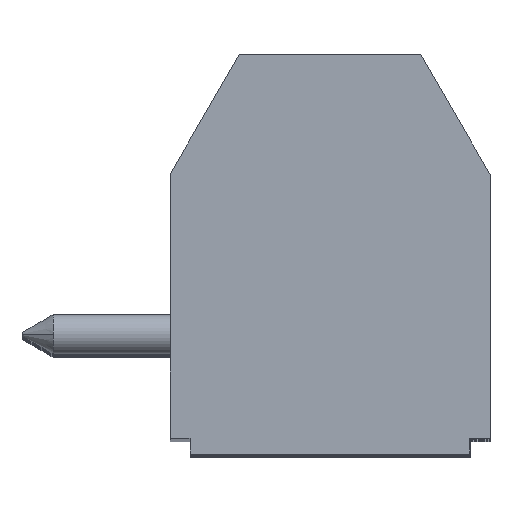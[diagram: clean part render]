
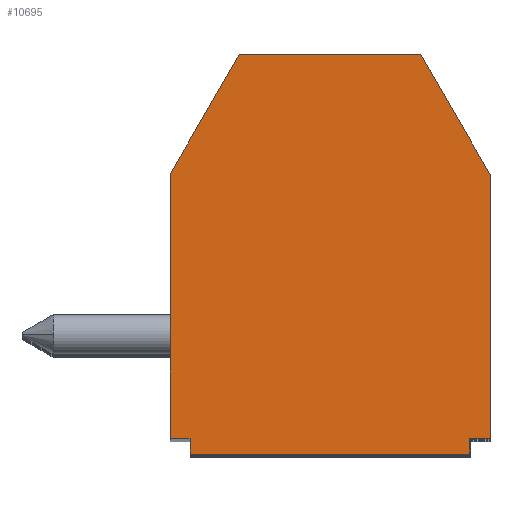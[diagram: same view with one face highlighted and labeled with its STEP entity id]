
A CAD part, top view. The second image highlights one B-rep face of the part: STEP entity #10695.
In plain terms, the highlighted planar face has unit normal (0, 0, 1).
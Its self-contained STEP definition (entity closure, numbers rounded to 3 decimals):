
#5650 = CARTESIAN_POINT ( 'NONE',  ( 4.438, 3.755, 0. ) ) ;
#5669 = VECTOR ( 'NONE', #5733, 1000. ) ;
#5670 = CARTESIAN_POINT ( 'NONE',  ( 4.438, 3.755, 0. ) ) ;
#5671 = LINE ( 'NONE', #5670, #5669 ) ;
#5678 = CARTESIAN_POINT ( 'NONE',  ( 2.706, 6.755, 0. ) ) ;
#5733 = DIRECTION ( 'NONE',  ( -0.5, 0.866, 0. ) ) ;
#5745 = DIRECTION ( 'NONE',  ( -1., 0., 0. ) ) ;
#5746 = VECTOR ( 'NONE', #5745, 1000. ) ;
#5747 = CARTESIAN_POINT ( 'NONE',  ( -3.562, 6.755, 0. ) ) ;
#5748 = LINE ( 'NONE', #5747, #5746 ) ;
#5755 = CARTESIAN_POINT ( 'NONE',  ( -1.83, 6.755, 0. ) ) ;
#5822 = DIRECTION ( 'NONE',  ( 0., 1., 0. ) ) ;
#5823 = VECTOR ( 'NONE', #5822, 1000. ) ;
#5824 = CARTESIAN_POINT ( 'NONE',  ( 4.438, 1.755, 0. ) ) ;
#5825 = LINE ( 'NONE', #5824, #5823 ) ;
#6521 = CARTESIAN_POINT ( 'NONE',  ( -3.562, -2.845, 0. ) ) ;
#6522 = DIRECTION ( 'NONE',  ( 1., 0., 0. ) ) ;
#6523 = VECTOR ( 'NONE', #6522, 1000. ) ;
#6524 = CARTESIAN_POINT ( 'NONE',  ( -3.562, -2.845, 0. ) ) ;
#6525 = LINE ( 'NONE', #6524, #6523 ) ;
#6591 = DIRECTION ( 'NONE',  ( 1., 0., 0. ) ) ;
#6592 = DIRECTION ( 'NONE',  ( 0., 0., 1. ) ) ;
#6593 = CARTESIAN_POINT ( 'NONE',  ( -3.562, -3.245, 0. ) ) ;
#6594 = AXIS2_PLACEMENT_3D ( 'NONE', #6593, #6592, #6591 ) ;
#6595 = PLANE ( 'NONE',  #6594 ) ;
#6596 = FACE_OUTER_BOUND ( 'NONE', #10697, .T. ) ;
#6703 = DIRECTION ( 'NONE',  ( 0., 1., 0. ) ) ;
#6704 = VECTOR ( 'NONE', #6703, 1000. ) ;
#6705 = CARTESIAN_POINT ( 'NONE',  ( -3.562, 0.455, 0. ) ) ;
#6706 = LINE ( 'NONE', #6705, #6704 ) ;
#6711 = CARTESIAN_POINT ( 'NONE',  ( -3.562, 3.755, 0. ) ) ;
#6712 = DIRECTION ( 'NONE',  ( 0.5, 0.866, 0. ) ) ;
#6713 = VECTOR ( 'NONE', #6712, 1000. ) ;
#6714 = CARTESIAN_POINT ( 'NONE',  ( -2.696, 5.255, 0. ) ) ;
#6715 = LINE ( 'NONE', #6714, #6713 ) ;
#9931 = VERTEX_POINT ( 'NONE', #5650 ) ;
#9959 = VERTEX_POINT ( 'NONE', #5678 ) ;
#9970 = EDGE_CURVE ( 'NONE', #9931, #9959, #5671, .T. ) ;
#9998 = VERTEX_POINT ( 'NONE', #5755 ) ;
#10003 = EDGE_CURVE ( 'NONE', #9959, #9998, #5748, .T. ) ;
#10034 = EDGE_CURVE ( 'NONE', #13415, #9931, #5825, .T. ) ;
#10576 = EDGE_CURVE ( 'NONE', #10578, #12960, #6525, .T. ) ;
#10578 = VERTEX_POINT ( 'NONE', #6521 ) ;
#10695 = ADVANCED_FACE ( 'NONE', ( #6596 ), #6595, .T. ) ;
#10697 = EDGE_LOOP ( 'NONE', ( #10699, #10701, #10704, #10706, #10709, #10711, #10713, #10752, #10754, #10760 ) ) ;
#10699 = ORIENTED_EDGE ( 'NONE', *, *, #10576, .T. ) ;
#10701 = ORIENTED_EDGE ( 'NONE', *, *, #12959, .T. ) ;
#10704 = ORIENTED_EDGE ( 'NONE', *, *, #13363, .T. ) ;
#10706 = ORIENTED_EDGE ( 'NONE', *, *, #13348, .T. ) ;
#10709 = ORIENTED_EDGE ( 'NONE', *, *, #13414, .T. ) ;
#10711 = ORIENTED_EDGE ( 'NONE', *, *, #10034, .T. ) ;
#10713 = ORIENTED_EDGE ( 'NONE', *, *, #9970, .T. ) ;
#10752 = ORIENTED_EDGE ( 'NONE', *, *, #10003, .T. ) ;
#10754 = ORIENTED_EDGE ( 'NONE', *, *, #10756, .F. ) ;
#10756 = EDGE_CURVE ( 'NONE', #10758, #9998, #6715, .T. ) ;
#10758 = VERTEX_POINT ( 'NONE', #6711 ) ;
#10760 = ORIENTED_EDGE ( 'NONE', *, *, #10762, .F. ) ;
#10762 = EDGE_CURVE ( 'NONE', #10578, #10758, #6706, .T. ) ;
#12959 = EDGE_CURVE ( 'NONE', #12960, #12961, #18959, .T. ) ;
#12960 = VERTEX_POINT ( 'NONE', #18955 ) ;
#12961 = VERTEX_POINT ( 'NONE', #18954 ) ;
#13346 = VERTEX_POINT ( 'NONE', #19642 ) ;
#13348 = EDGE_CURVE ( 'NONE', #13361, #13346, #19641, .T. ) ;
#13361 = VERTEX_POINT ( 'NONE', #19621 ) ;
#13363 = EDGE_CURVE ( 'NONE', #12961, #13361, #19620, .T. ) ;
#13414 = EDGE_CURVE ( 'NONE', #13346, #13415, #19656, .T. ) ;
#13415 = VERTEX_POINT ( 'NONE', #19652 ) ;
#18954 = CARTESIAN_POINT ( 'NONE',  ( -3.062, -3.245, 0. ) ) ;
#18955 = CARTESIAN_POINT ( 'NONE',  ( -3.062, -2.845, 0. ) ) ;
#18956 = DIRECTION ( 'NONE',  ( 0., -1., 0. ) ) ;
#18957 = VECTOR ( 'NONE', #18956, 1000. ) ;
#18958 = CARTESIAN_POINT ( 'NONE',  ( -3.062, -3.045, 0. ) ) ;
#18959 = LINE ( 'NONE', #18958, #18957 ) ;
#19617 = DIRECTION ( 'NONE',  ( 1., 0., 0. ) ) ;
#19618 = VECTOR ( 'NONE', #19617, 1000. ) ;
#19619 = CARTESIAN_POINT ( 'NONE',  ( 0.438, -3.245, 0. ) ) ;
#19620 = LINE ( 'NONE', #19619, #19618 ) ;
#19621 = CARTESIAN_POINT ( 'NONE',  ( 3.938, -3.245, 0. ) ) ;
#19638 = DIRECTION ( 'NONE',  ( 0., 1., 0. ) ) ;
#19639 = VECTOR ( 'NONE', #19638, 1000. ) ;
#19640 = CARTESIAN_POINT ( 'NONE',  ( 3.938, 1.755, 0. ) ) ;
#19641 = LINE ( 'NONE', #19640, #19639 ) ;
#19642 = CARTESIAN_POINT ( 'NONE',  ( 3.938, -2.845, 0. ) ) ;
#19652 = CARTESIAN_POINT ( 'NONE',  ( 4.438, -2.845, 0. ) ) ;
#19653 = DIRECTION ( 'NONE',  ( 1., 0., 0. ) ) ;
#19654 = VECTOR ( 'NONE', #19653, 1000. ) ;
#19655 = CARTESIAN_POINT ( 'NONE',  ( 0.438, -2.845, 0. ) ) ;
#19656 = LINE ( 'NONE', #19655, #19654 ) ;
